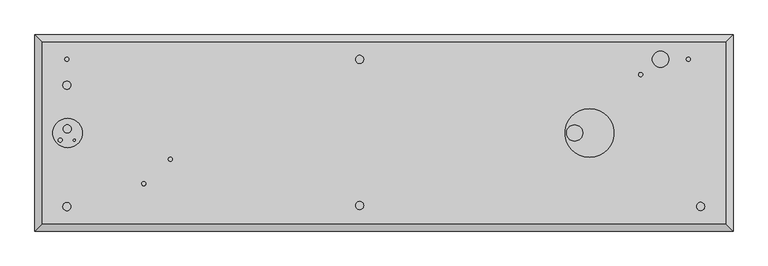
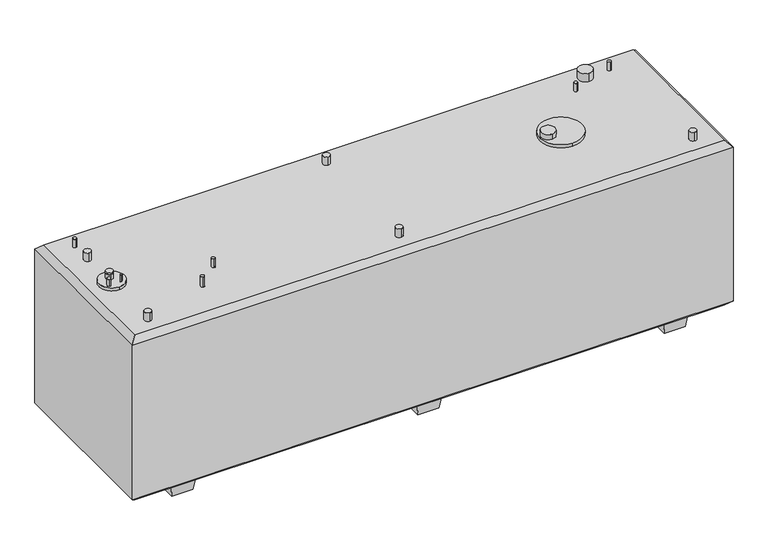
"""IFC4 building model written with IfcOpenShell, lengths in millimetres: proxy geometry, Convault Tank Family 88153032 : Convault Tank Family 88153032."""

from ifc_helpers import new_model, si_unit, point, frame, frame_2d, origin, place, context, project, spatial, polyline, circle_curve, trimmed, segment, composite_curve, outline, extrude, faceted_brep, source, transform, mapped, element, save
from ifc_brep_helpers import plane_surface, cylinder_surface, revolved_surface, advanced_brep


def generic_models_97f52d0d(model_context):
    return source(origin(), model_context, "Body", "SolidModel", [
        extrude(outline(composite_curve([segment(trimmed(circle_curve(frame_2d((-3954.4625, 0.0)), 184.15), [point((-3954.4625, 184.15))], [point((-3954.4625, -184.15))], False, "CARTESIAN"), True, "CONTINUOUS"), segment(trimmed(circle_curve(frame_2d((-3954.4625, 0.0)), 184.15), [point((-3954.4625, -184.15))], [point((-3954.4625, 184.15))], False, "CARTESIAN"), True, "CONTINUOUS")], self_intersect=False)), frame((0.0, 0.0, 2508.25), z_axis=(0.0, 0.0, 1.0), x_axis=(1.0, 0.0, 0.0)), (0.0, 0.0, 1.0), 224.7090569),
        extrude(outline(composite_curve([segment(trimmed(circle_curve(frame_2d((2568.575, 0.0)), 304.8), [point((2568.575, 304.8))], [point((2568.575, -304.8))], False, "CARTESIAN"), True, "CONTINUOUS"), segment(trimmed(circle_curve(frame_2d((2568.575, 0.0)), 304.8), [point((2568.575, -304.8))], [point((2568.575, 304.8))], False, "CARTESIAN"), True, "CONTINUOUS")], self_intersect=False)), frame((0.0, 0.0, 2508.25), z_axis=(0.0, 0.0, 1.0), x_axis=(1.0, 0.0, 0.0)), (0.0, 0.0, 1.0), 224.7090569),
        advanced_brep(
        [(-3001.9625, -657.225, 2838.45), (-3001.9625, -606.425, 2838.45), (-3027.2795956, -633.875529, 2508.25), (-3001.9625, -606.425, 2508.25), (-2976.6454044, -633.875529, 2508.25), (-3001.9625, -610.5260581, 2508.25), (-3001.9625, -657.225, 2686.05), (-2976.6454044, -633.875529, 2686.05), (-3027.2795956, -633.875529, 2686.05), (-3001.9625, -610.5260581, 2686.05)],
        [
            (0, 1, circle_curve(frame((-3001.9625, -631.825, 2838.45), z_axis=(0.0, 0.0, 1.0), x_axis=(0.0, 1.0, 0.0)), 25.4)),
            (1, 0, circle_curve(frame((-3001.9625, -631.825, 2838.45), z_axis=(0.0, 0.0, 1.0), x_axis=(0.0, 1.0, 0.0)), 25.4)),
            (2, 3, circle_curve(frame((-3001.9625, -631.825, 2508.25), z_axis=(0.0, 0.0, -1.0), x_axis=(0.0, 1.0, 0.0)), 25.4)),
            (3, 4, circle_curve(frame((-3001.9625, -631.825, 2508.25), z_axis=(0.0, 0.0, -1.0), x_axis=(0.0, 1.0, 0.0)), 25.4)),
            (4, 5, circle_curve(frame((-3001.9625, -635.9260581, 2508.25), z_axis=(0.0, 0.0, 1.0), x_axis=(0.0, -1.0, 0.0)), 25.4)),
            (5, 2, circle_curve(frame((-3001.9625, -635.9260581, 2508.25), z_axis=(0.0, 0.0, 1.0), x_axis=(0.0, -1.0, 0.0)), 25.4)),
            (0, 6),
            (6, 7, circle_curve(frame((-3001.9625, -631.825, 2686.05), z_axis=(0.0, 0.0, 1.0), x_axis=(0.0, 1.0, 0.0)), 25.4)),
            (7, 4),
            (3, 1),
            (2, 8),
            (8, 6, circle_curve(frame((-3001.9625, -631.825, 2686.05), z_axis=(0.0, 0.0, 1.0), x_axis=(0.0, 1.0, 0.0)), 25.4)),
            (9, 7, circle_curve(frame((-3001.9625, -635.9260581, 2686.05), z_axis=(0.0, 0.0, -1.0), x_axis=(0.0, -1.0, 0.0)), 25.4)),
            (8, 9, circle_curve(frame((-3001.9625, -635.9260581, 2686.05), z_axis=(0.0, 0.0, -1.0), x_axis=(0.0, -1.0, 0.0)), 25.4)),
            (5, 9),
        ],
        [
            plane_surface(frame((-3001.9625, -606.425, 2838.45), z_axis=(0.0, 0.0, 1.0), x_axis=(-1.0, 0.0, 0.0))),
            plane_surface(frame((-3001.9625, -606.425, 2508.25), z_axis=(0.0, 0.0, -1.0), x_axis=(1.0, 0.0, 0.0))),
            cylinder_surface(frame((-3001.9625, -631.825, 2508.25), z_axis=(0.0, 0.0, 1.0), x_axis=(0.0, 1.0, 0.0)), 25.4),
            plane_surface(frame((-3962.4, 895.35, 2686.05), z_axis=(0.0, 0.0, -1.0), x_axis=(1.0, 0.0, 0.0))),
            revolved_surface(polyline([(-3001.9625, -661.3260581, 2686.05), (-3001.9625, -661.3260581, 2508.25)]), (-3001.9625, -635.9260581, 2508.25), (0.0, 0.0, 1.0)),
        ],
        [
            (0, [[1, 2]]),
            (1, [[3, 4, 5, 6]]),
            (2, [[-1, 7, 8, 9, -4, 10]]),
            (2, [[-2, -10, -3, 11, 12, -7]]),
            (3, [[13, -8, -12, 14]]),
            (4, [[15, -14, -11, -6]]),
            (4, [[-15, -5, -9, -13]]),
        ],
    ),
        advanced_brep(
        [(-3962.4, 946.15, 2813.05), (-3962.4, 895.35, 2813.05), (-3962.4, 946.15, 2686.05), (-3962.4, 895.35, 2686.05)],
        [
            (0, 1, circle_curve(frame((-3962.4, 920.75, 2813.05), z_axis=(0.0, 0.0, 1.0), x_axis=(0.0, -1.0, 0.0)), 25.4)),
            (1, 0, circle_curve(frame((-3962.4, 920.75, 2813.05), z_axis=(0.0, 0.0, 1.0), x_axis=(0.0, -1.0, 0.0)), 25.4)),
            (0, 2),
            (2, 3, circle_curve(frame((-3962.4, 920.75, 2686.05), z_axis=(0.0, 0.0, 1.0), x_axis=(0.0, -1.0, 0.0)), 25.4)),
            (3, 1),
            (3, 2, circle_curve(frame((-3962.4, 920.75, 2686.05), z_axis=(0.0, 0.0, 1.0), x_axis=(0.0, -1.0, 0.0)), 25.4)),
        ],
        [
            plane_surface(frame((-3962.4, 895.35, 2813.05), z_axis=(0.0, 0.0, 1.0), x_axis=(1.0, 0.0, 0.0))),
            cylinder_surface(frame((-3962.4, 920.75, 2508.25), z_axis=(0.0, 0.0, 1.0), x_axis=(0.0, -1.0, 0.0)), 25.4),
            plane_surface(frame((-3962.4, 895.35, 2686.05), z_axis=(0.0, 0.0, -1.0), x_axis=(1.0, 0.0, 0.0))),
        ],
        [
            (0, [[1, 2]]),
            (1, [[-1, 3, 4, 5]]),
            (1, [[-2, -5, 6, -3]]),
            (2, [[-4, -6]]),
        ],
    ),
        advanced_brep(
        [(-3962.4, 647.7, 2813.05), (-3962.4, 546.1, 2813.05), (-3962.4, 647.7, 2686.05), (-3962.4, 546.1, 2686.05)],
        [
            (0, 1, circle_curve(frame((-3962.4, 596.9, 2813.05), z_axis=(0.0, 0.0, 1.0), x_axis=(0.0, -1.0, 0.0)), 50.8)),
            (1, 0, circle_curve(frame((-3962.4, 596.9, 2813.05), z_axis=(0.0, 0.0, 1.0), x_axis=(0.0, -1.0, 0.0)), 50.8)),
            (0, 2),
            (2, 3, circle_curve(frame((-3962.4, 596.9, 2686.05), z_axis=(0.0, 0.0, 1.0), x_axis=(0.0, -1.0, 0.0)), 50.8)),
            (3, 1),
            (3, 2, circle_curve(frame((-3962.4, 596.9, 2686.05), z_axis=(0.0, 0.0, 1.0), x_axis=(0.0, -1.0, 0.0)), 50.8)),
        ],
        [
            plane_surface(frame((-3962.4, 895.35, 2813.05), z_axis=(0.0, 0.0, 1.0), x_axis=(1.0, 0.0, 0.0))),
            cylinder_surface(frame((-3962.4, 596.9, 2508.25), z_axis=(0.0, 0.0, 1.0), x_axis=(0.0, -1.0, 0.0)), 50.8),
            plane_surface(frame((-3962.4, 895.35, 2686.05), z_axis=(0.0, 0.0, -1.0), x_axis=(1.0, 0.0, 0.0))),
        ],
        [
            (0, [[1, 2]]),
            (1, [[-1, 3, 4, 5]]),
            (1, [[-2, -5, 6, -3]]),
            (2, [[-4, -6]]),
        ],
    ),
        advanced_brep(
        [(-3962.4, -869.95, 2813.05), (-3962.4, -971.55, 2813.05), (-3962.4, -869.95, 2686.05), (-3962.4, -971.55, 2686.05)],
        [
            (0, 1, circle_curve(frame((-3962.4, -920.75, 2813.05), z_axis=(0.0, 0.0, 1.0), x_axis=(0.0, -1.0, 0.0)), 50.8)),
            (1, 0, circle_curve(frame((-3962.4, -920.75, 2813.05), z_axis=(0.0, 0.0, 1.0), x_axis=(0.0, -1.0, 0.0)), 50.8)),
            (0, 2),
            (2, 3, circle_curve(frame((-3962.4, -920.75, 2686.05), z_axis=(0.0, 0.0, 1.0), x_axis=(0.0, -1.0, 0.0)), 50.8)),
            (3, 1),
            (3, 2, circle_curve(frame((-3962.4, -920.75, 2686.05), z_axis=(0.0, 0.0, 1.0), x_axis=(0.0, -1.0, 0.0)), 50.8)),
        ],
        [
            plane_surface(frame((-3962.4, 895.35, 2813.05), z_axis=(0.0, 0.0, 1.0), x_axis=(1.0, 0.0, 0.0))),
            cylinder_surface(frame((-3962.4, -920.75, 2508.25), z_axis=(0.0, 0.0, 1.0), x_axis=(0.0, -1.0, 0.0)), 50.8),
            plane_surface(frame((-3962.4, 895.35, 2686.05), z_axis=(0.0, 0.0, -1.0), x_axis=(1.0, 0.0, 0.0))),
        ],
        [
            (0, [[1, 2]]),
            (1, [[-1, 3, 4, 5]]),
            (1, [[-2, -5, 6, -3]]),
            (2, [[-4, -6]]),
        ],
    ),
        advanced_brep(
        [(-2670.175, -301.625, 2813.05), (-2670.175, -352.425, 2813.05), (-2670.175, -301.625, 2686.05), (-2670.175, -352.425, 2686.05)],
        [
            (0, 1, circle_curve(frame((-2670.175, -327.025, 2813.05), z_axis=(0.0, 0.0, 1.0), x_axis=(0.0, -1.0, 0.0)), 25.4)),
            (1, 0, circle_curve(frame((-2670.175, -327.025, 2813.05), z_axis=(0.0, 0.0, 1.0), x_axis=(0.0, -1.0, 0.0)), 25.4)),
            (0, 2),
            (2, 3, circle_curve(frame((-2670.175, -327.025, 2686.05), z_axis=(0.0, 0.0, 1.0), x_axis=(0.0, -1.0, 0.0)), 25.4)),
            (3, 1),
            (3, 2, circle_curve(frame((-2670.175, -327.025, 2686.05), z_axis=(0.0, 0.0, 1.0), x_axis=(0.0, -1.0, 0.0)), 25.4)),
        ],
        [
            plane_surface(frame((-3962.4, 895.35, 2813.05), z_axis=(0.0, 0.0, 1.0), x_axis=(1.0, 0.0, 0.0))),
            cylinder_surface(frame((-2670.175, -327.025, 2508.25), z_axis=(0.0, 0.0, 1.0), x_axis=(0.0, -1.0, 0.0)), 25.4),
            plane_surface(frame((-3962.4, 895.35, 2686.05), z_axis=(0.0, 0.0, -1.0), x_axis=(1.0, 0.0, 0.0))),
        ],
        [
            (0, [[1, 2]]),
            (1, [[-1, 3, 4, 5]]),
            (1, [[-2, -5, 6, -3]]),
            (2, [[-4, -6]]),
        ],
    ),
        advanced_brep(
        [(2382.8375, 101.6, 2813.05), (2382.8375, -101.6, 2813.05), (2382.8375, 101.6, 2686.05), (2382.8375, -101.6, 2686.05)],
        [
            (0, 1, circle_curve(frame((2382.8375, 0.0, 2813.05), z_axis=(0.0, 0.0, 1.0), x_axis=(0.0, -1.0, 0.0)), 101.6)),
            (1, 0, circle_curve(frame((2382.8375, 0.0, 2813.05), z_axis=(0.0, 0.0, 1.0), x_axis=(0.0, -1.0, 0.0)), 101.6)),
            (0, 2),
            (2, 3, circle_curve(frame((2382.8375, 0.0, 2686.05), z_axis=(0.0, 0.0, 1.0), x_axis=(0.0, -1.0, 0.0)), 101.6)),
            (3, 1),
            (3, 2, circle_curve(frame((2382.8375, 0.0, 2686.05), z_axis=(0.0, 0.0, 1.0), x_axis=(0.0, -1.0, 0.0)), 101.6)),
        ],
        [
            plane_surface(frame((-3962.4, 895.35, 2813.05), z_axis=(0.0, 0.0, 1.0), x_axis=(1.0, 0.0, 0.0))),
            cylinder_surface(frame((2382.8375, 0.0, 2508.25), z_axis=(0.0, 0.0, 1.0), x_axis=(0.0, -1.0, 0.0)), 101.6),
            plane_surface(frame((-3962.4, 895.35, 2686.05), z_axis=(0.0, 0.0, -1.0), x_axis=(1.0, 0.0, 0.0))),
        ],
        [
            (0, [[1, 2]]),
            (1, [[-1, 3, 4, 5]]),
            (1, [[-2, -5, 6, -3]]),
            (2, [[-4, -6]]),
        ],
    ),
        advanced_brep(
        [(3455.9875, 1022.35, 2813.05), (3455.9875, 819.15, 2813.05), (3455.9875, 1022.35, 2508.25), (3455.9875, 819.15, 2508.25)],
        [
            (0, 1, circle_curve(frame((3455.9875, 920.75, 2813.05), z_axis=(0.0, 0.0, 1.0), x_axis=(0.0, -1.0, 0.0)), 101.6)),
            (1, 0, circle_curve(frame((3455.9875, 920.75, 2813.05), z_axis=(0.0, 0.0, 1.0), x_axis=(0.0, -1.0, 0.0)), 101.6)),
            (2, 3, circle_curve(frame((3455.9875, 920.75, 2508.25), z_axis=(0.0, 0.0, -1.0), x_axis=(0.0, -1.0, 0.0)), 101.6)),
            (3, 2, circle_curve(frame((3455.9875, 920.75, 2508.25), z_axis=(0.0, 0.0, -1.0), x_axis=(0.0, -1.0, 0.0)), 101.6)),
            (0, 2),
            (3, 1),
        ],
        [
            plane_surface(frame((-3962.4, 895.35, 2813.05), z_axis=(0.0, 0.0, 1.0), x_axis=(1.0, 0.0, 0.0))),
            plane_surface(frame((-3962.4, 895.35, 2508.25), z_axis=(0.0, 0.0, -1.0), x_axis=(-1.0, 0.0, 0.0))),
            cylinder_surface(frame((3455.9875, 920.75, 2508.25), z_axis=(0.0, 0.0, 1.0), x_axis=(0.0, -1.0, 0.0)), 101.6),
        ],
        [
            (0, [[1, 2]]),
            (1, [[3, 4]]),
            (2, [[-1, 5, -4, 6]]),
            (2, [[-2, -6, -3, -5]]),
        ],
    ),
        advanced_brep(
        [(3803.65, 946.15, 2813.05), (3803.65, 895.35, 2813.05), (3803.65, 946.15, 2686.05), (3803.65, 895.35, 2686.05)],
        [
            (0, 1, circle_curve(frame((3803.65, 920.75, 2813.05), z_axis=(0.0, 0.0, 1.0), x_axis=(0.0, -1.0, 0.0)), 25.4)),
            (1, 0, circle_curve(frame((3803.65, 920.75, 2813.05), z_axis=(0.0, 0.0, 1.0), x_axis=(0.0, -1.0, 0.0)), 25.4)),
            (0, 2),
            (2, 3, circle_curve(frame((3803.65, 920.75, 2686.05), z_axis=(0.0, 0.0, 1.0), x_axis=(0.0, -1.0, 0.0)), 25.4)),
            (3, 1),
            (3, 2, circle_curve(frame((3803.65, 920.75, 2686.05), z_axis=(0.0, 0.0, 1.0), x_axis=(0.0, -1.0, 0.0)), 25.4)),
        ],
        [
            plane_surface(frame((-3962.4, 895.35, 2813.05), z_axis=(0.0, 0.0, 1.0), x_axis=(1.0, 0.0, 0.0))),
            cylinder_surface(frame((3803.65, 920.75, 2508.25), z_axis=(0.0, 0.0, 1.0), x_axis=(0.0, -1.0, 0.0)), 25.4),
            plane_surface(frame((-3962.4, 895.35, 2686.05), z_axis=(0.0, 0.0, -1.0), x_axis=(1.0, 0.0, 0.0))),
        ],
        [
            (0, [[1, 2]]),
            (1, [[-1, 3, 4, 5]]),
            (1, [[-2, -5, 6, -3]]),
            (2, [[-4, -6]]),
        ],
    ),
        advanced_brep(
        [(-304.8, -855.6625, 2813.05), (-304.8, -957.2625, 2813.05), (-304.8, -855.6625, 2686.05), (-304.8, -957.2625, 2686.05)],
        [
            (0, 1, circle_curve(frame((-304.8, -906.4625, 2813.05), z_axis=(0.0, 0.0, 1.0), x_axis=(0.0, -1.0, 0.0)), 50.8)),
            (1, 0, circle_curve(frame((-304.8, -906.4625, 2813.05), z_axis=(0.0, 0.0, 1.0), x_axis=(0.0, -1.0, 0.0)), 50.8)),
            (0, 2),
            (2, 3, circle_curve(frame((-304.8, -906.4625, 2686.05), z_axis=(0.0, 0.0, 1.0), x_axis=(0.0, -1.0, 0.0)), 50.8)),
            (3, 1),
            (3, 2, circle_curve(frame((-304.8, -906.4625, 2686.05), z_axis=(0.0, 0.0, 1.0), x_axis=(0.0, -1.0, 0.0)), 50.8)),
        ],
        [
            plane_surface(frame((-3962.4, 895.35, 2813.05), z_axis=(0.0, 0.0, 1.0), x_axis=(1.0, 0.0, 0.0))),
            cylinder_surface(frame((-304.8, -906.4625, 2508.25), z_axis=(0.0, 0.0, 1.0), x_axis=(0.0, -1.0, 0.0)), 50.8),
            plane_surface(frame((-3962.4, 895.35, 2686.05), z_axis=(0.0, 0.0, -1.0), x_axis=(1.0, 0.0, 0.0))),
        ],
        [
            (0, [[1, 2]]),
            (1, [[-1, 3, 4, 5]]),
            (1, [[-2, -5, 6, -3]]),
            (2, [[-4, -6]]),
        ],
    ),
        advanced_brep(
        [(3956.05, -867.3290693, 2813.05), (3956.05, -968.9290693, 2813.05), (3956.05, -867.3290693, 2508.25), (4006.8488176, -918.475672, 2508.25), (3956.05, -868.0222746, 2508.25), (3905.2511824, -918.475672, 2508.25), (3956.05, -868.0222746, 2686.05), (4006.8488176, -918.475672, 2686.05), (3956.05, -968.9290693, 2686.05), (3905.2511824, -918.475672, 2686.05)],
        [
            (0, 1, circle_curve(frame((3956.05, -918.1290693, 2813.05), z_axis=(0.0, 0.0, 1.0), x_axis=(0.0, -1.0, 0.0)), 50.8)),
            (1, 0, circle_curve(frame((3956.05, -918.1290693, 2813.05), z_axis=(0.0, 0.0, 1.0), x_axis=(0.0, -1.0, 0.0)), 50.8)),
            (2, 3, circle_curve(frame((3956.05, -918.1290693, 2508.25), z_axis=(0.0, 0.0, -1.0), x_axis=(0.0, -1.0, 0.0)), 50.8)),
            (3, 4, circle_curve(frame((3956.05, -918.8222746, 2508.25), z_axis=(0.0, 0.0, 1.0), x_axis=(0.0, -1.0, 0.0)), 50.8)),
            (4, 5, circle_curve(frame((3956.05, -918.8222746, 2508.25), z_axis=(0.0, 0.0, 1.0), x_axis=(0.0, -1.0, 0.0)), 50.8)),
            (5, 2, circle_curve(frame((3956.05, -918.1290693, 2508.25), z_axis=(0.0, 0.0, -1.0), x_axis=(0.0, -1.0, 0.0)), 50.8)),
            (6, 7, circle_curve(frame((3956.05, -918.8222746, 2686.05), z_axis=(0.0, 0.0, -1.0), x_axis=(0.0, -1.0, 0.0)), 50.8)),
            (7, 8, circle_curve(frame((3956.05, -918.1290693, 2686.05), z_axis=(0.0, 0.0, -1.0), x_axis=(0.0, -1.0, 0.0)), 50.8)),
            (8, 9, circle_curve(frame((3956.05, -918.1290693, 2686.05), z_axis=(0.0, 0.0, -1.0), x_axis=(0.0, -1.0, 0.0)), 50.8)),
            (9, 6, circle_curve(frame((3956.05, -918.8222746, 2686.05), z_axis=(0.0, 0.0, -1.0), x_axis=(0.0, -1.0, 0.0)), 50.8)),
            (0, 2),
            (5, 9),
            (8, 1),
            (7, 3),
            (4, 6),
        ],
        [
            plane_surface(frame((-3962.4, 895.35, 2813.05), z_axis=(0.0, 0.0, 1.0), x_axis=(1.0, 0.0, 0.0))),
            plane_surface(frame((-3962.4, 895.35, 2508.25), z_axis=(0.0, 0.0, -1.0), x_axis=(-1.0, 0.0, 0.0))),
            plane_surface(frame((-3962.4, 895.35, 2686.05), z_axis=(0.0, 0.0, -1.0), x_axis=(1.0, 0.0, 0.0))),
            cylinder_surface(frame((3956.05, -918.1290693, 2508.25), z_axis=(0.0, 0.0, 1.0), x_axis=(0.0, -1.0, 0.0)), 50.8),
            revolved_surface(polyline([(3956.05, -969.6222746, 2686.05), (3956.05, -969.6222746, 2508.25)]), (3956.05, -918.8222746, 2508.25), (0.0, 0.0, 1.0)),
        ],
        [
            (0, [[1, 2]]),
            (1, [[3, 4, 5, 6]]),
            (2, [[7, 8, 9, 10]]),
            (3, [[-1, 11, -6, 12, -9, 13]]),
            (3, [[-2, -13, -8, 14, -3, -11]]),
            (4, [[15, -10, -12, -5]]),
            (4, [[-15, -4, -14, -7]]),
        ],
    ),
        advanced_brep(
        [(-3959.225, 101.6, 2813.05), (-3959.225, 0.0, 2813.05), (-3959.225, 101.6, 2508.25), (-3959.225, 0.0, 2508.25)],
        [
            (0, 1, circle_curve(frame((-3959.225, 50.8, 2813.05), z_axis=(0.0, 0.0, 1.0), x_axis=(0.0, -1.0, 0.0)), 50.8)),
            (1, 0, circle_curve(frame((-3959.225, 50.8, 2813.05), z_axis=(0.0, 0.0, 1.0), x_axis=(0.0, -1.0, 0.0)), 50.8)),
            (2, 3, circle_curve(frame((-3959.225, 50.8, 2508.25), z_axis=(0.0, 0.0, -1.0), x_axis=(0.0, -1.0, 0.0)), 50.8)),
            (3, 2, circle_curve(frame((-3959.225, 50.8, 2508.25), z_axis=(0.0, 0.0, -1.0), x_axis=(0.0, -1.0, 0.0)), 50.8)),
            (0, 2),
            (3, 1),
        ],
        [
            plane_surface(frame((-3962.4, 895.35, 2813.05), z_axis=(0.0, 0.0, 1.0), x_axis=(1.0, 0.0, 0.0))),
            plane_surface(frame((-3962.4, 895.35, 2508.25), z_axis=(0.0, 0.0, -1.0), x_axis=(-1.0, 0.0, 0.0))),
            cylinder_surface(frame((-3959.225, 50.8, 2508.25), z_axis=(0.0, 0.0, 1.0), x_axis=(0.0, -1.0, 0.0)), 50.8),
        ],
        [
            (0, [[1, 2]]),
            (1, [[3, 4]]),
            (2, [[-1, 5, -4, 6]]),
            (2, [[-2, -6, -3, -5]]),
        ],
    ),
        advanced_brep(
        [(-304.8, 971.55, 2813.05), (-304.8, 869.95, 2813.05), (-304.8, 971.55, 2508.25), (-304.8, 869.95, 2508.25)],
        [
            (0, 1, circle_curve(frame((-304.8, 920.75, 2813.05), z_axis=(0.0, 0.0, 1.0), x_axis=(0.0, -1.0, 0.0)), 50.8)),
            (1, 0, circle_curve(frame((-304.8, 920.75, 2813.05), z_axis=(0.0, 0.0, 1.0), x_axis=(0.0, -1.0, 0.0)), 50.8)),
            (2, 3, circle_curve(frame((-304.8, 920.75, 2508.25), z_axis=(0.0, 0.0, -1.0), x_axis=(0.0, -1.0, 0.0)), 50.8)),
            (3, 2, circle_curve(frame((-304.8, 920.75, 2508.25), z_axis=(0.0, 0.0, -1.0), x_axis=(0.0, -1.0, 0.0)), 50.8)),
            (0, 2),
            (3, 1),
        ],
        [
            plane_surface(frame((-3962.4, 895.35, 2813.05), z_axis=(0.0, 0.0, 1.0), x_axis=(1.0, 0.0, 0.0))),
            plane_surface(frame((-3962.4, 895.35, 2508.25), z_axis=(0.0, 0.0, -1.0), x_axis=(-1.0, 0.0, 0.0))),
            cylinder_surface(frame((-304.8, 920.75, 2508.25), z_axis=(0.0, 0.0, 1.0), x_axis=(0.0, -1.0, 0.0)), 50.8),
        ],
        [
            (0, [[1, 2]]),
            (1, [[3, 4]]),
            (2, [[-1, 5, -4, 6]]),
            (2, [[-2, -6, -3, -5]]),
        ],
    ),
        advanced_brep(
        [(3206.75, 755.65, 2813.05), (3206.75, 704.85, 2813.05), (3206.75, 755.65, 2508.25), (3206.75, 704.85, 2508.25)],
        [
            (0, 1, circle_curve(frame((3206.75, 730.25, 2813.05), z_axis=(0.0, 0.0, 1.0), x_axis=(0.0, -1.0, 0.0)), 25.4)),
            (1, 0, circle_curve(frame((3206.75, 730.25, 2813.05), z_axis=(0.0, 0.0, 1.0), x_axis=(0.0, -1.0, 0.0)), 25.4)),
            (2, 3, circle_curve(frame((3206.75, 730.25, 2508.25), z_axis=(0.0, 0.0, -1.0), x_axis=(0.0, -1.0, 0.0)), 25.4)),
            (3, 2, circle_curve(frame((3206.75, 730.25, 2508.25), z_axis=(0.0, 0.0, -1.0), x_axis=(0.0, -1.0, 0.0)), 25.4)),
            (0, 2),
            (3, 1),
        ],
        [
            plane_surface(frame((-3962.4, 895.35, 2813.05), z_axis=(0.0, 0.0, 1.0), x_axis=(1.0, 0.0, 0.0))),
            plane_surface(frame((-3962.4, 895.35, 2508.25), z_axis=(0.0, 0.0, -1.0), x_axis=(-1.0, 0.0, 0.0))),
            cylinder_surface(frame((3206.75, 730.25, 2508.25), z_axis=(0.0, 0.0, 1.0), x_axis=(0.0, -1.0, 0.0)), 25.4),
        ],
        [
            (0, [[1, 2]]),
            (1, [[3, 4]]),
            (2, [[-1, 5, -4, 6]]),
            (2, [[-2, -6, -3, -5]]),
        ],
    ),
        extrude(outline(polyline([(4210.05, 1073.15), (4210.05, -1073.15), (-4210.05, -1073.15), (-4210.05, 1073.15), (4210.05, 1073.15)]), holes=[composite_curve([segment(trimmed(circle_curve(frame_2d((-3962.4, 920.75)), 25.4), [point((-3962.4, 946.15))], [point((-3962.4, 895.35))], True, "CARTESIAN"), True, "CONTINUOUS"), segment(trimmed(circle_curve(frame_2d((-3962.4, 920.75)), 25.4), [point((-3962.4, 895.35))], [point((-3962.4, 946.15))], True, "CARTESIAN"), True, "CONTINUOUS")], self_intersect=False), composite_curve([segment(trimmed(circle_curve(frame_2d((-3962.4, 596.9)), 50.8), [point((-3962.4, 647.7))], [point((-3962.4, 546.1))], True, "CARTESIAN"), True, "CONTINUOUS"), segment(trimmed(circle_curve(frame_2d((-3962.4, 596.9)), 50.8), [point((-3962.4, 546.1))], [point((-3962.4, 647.7))], True, "CARTESIAN"), True, "CONTINUOUS")], self_intersect=False), composite_curve([segment(trimmed(circle_curve(frame_2d((-3962.4, -920.75)), 50.8), [point((-3962.4, -869.95))], [point((-3962.4, -971.55))], True, "CARTESIAN"), True, "CONTINUOUS"), segment(trimmed(circle_curve(frame_2d((-3962.4, -920.75)), 50.8), [point((-3962.4, -971.55))], [point((-3962.4, -869.95))], True, "CARTESIAN"), True, "CONTINUOUS")], self_intersect=False), composite_curve([segment(trimmed(circle_curve(frame_2d((-2670.175, -327.025)), 25.4), [point((-2670.175, -301.625))], [point((-2670.175, -352.425))], True, "CARTESIAN"), True, "CONTINUOUS"), segment(trimmed(circle_curve(frame_2d((-2670.175, -327.025)), 25.4), [point((-2670.175, -352.425))], [point((-2670.175, -301.625))], True, "CARTESIAN"), True, "CONTINUOUS")], self_intersect=False), composite_curve([segment(trimmed(circle_curve(frame_2d((2382.8375, 0.0)), 101.6), [point((2382.8375, 101.6))], [point((2382.8375, -101.6))], True, "CARTESIAN"), True, "CONTINUOUS"), segment(trimmed(circle_curve(frame_2d((2382.8375, 0.0)), 101.6), [point((2382.8375, -101.6))], [point((2382.8375, 101.6))], True, "CARTESIAN"), True, "CONTINUOUS")], self_intersect=False), composite_curve([segment(trimmed(circle_curve(frame_2d((3803.65, 920.75)), 25.4), [point((3803.65, 946.15))], [point((3803.65, 895.35))], True, "CARTESIAN"), True, "CONTINUOUS"), segment(trimmed(circle_curve(frame_2d((3803.65, 920.75)), 25.4), [point((3803.65, 895.35))], [point((3803.65, 946.15))], True, "CARTESIAN"), True, "CONTINUOUS")], self_intersect=False), composite_curve([segment(trimmed(circle_curve(frame_2d((-304.8, -906.4625)), 50.8), [point((-304.8, -855.6625))], [point((-304.8, -957.2625))], True, "CARTESIAN"), True, "CONTINUOUS"), segment(trimmed(circle_curve(frame_2d((-304.8, -906.4625)), 50.8), [point((-304.8, -957.2625))], [point((-304.8, -855.6625))], True, "CARTESIAN"), True, "CONTINUOUS")], self_intersect=False), composite_curve([segment(trimmed(circle_curve(frame_2d((-3001.9625, -635.9260581)), 25.4), [point((-3001.9625, -610.5260581))], [point((-3001.9625, -661.3260581))], True, "CARTESIAN"), True, "CONTINUOUS"), segment(trimmed(circle_curve(frame_2d((-3001.9625, -635.9260581)), 25.4), [point((-3001.9625, -661.3260581))], [point((-3001.9625, -610.5260581))], True, "CARTESIAN"), True, "CONTINUOUS")], self_intersect=False), composite_curve([segment(trimmed(circle_curve(frame_2d((3956.05, -918.8222746)), 50.8), [point((3956.05, -868.0222746))], [point((3956.05, -969.6222746))], True, "CARTESIAN"), True, "CONTINUOUS"), segment(trimmed(circle_curve(frame_2d((3956.05, -918.8222746)), 50.8), [point((3956.05, -969.6222746))], [point((3956.05, -868.0222746))], True, "CARTESIAN"), True, "CONTINUOUS")], self_intersect=False)]), frame((0.0, 0.0, 2508.25), z_axis=(0.0, 0.0, 1.0), x_axis=(1.0, 0.0, 0.0)), (0.0, 0.0, 1.0), 25.4),
        extrude(outline(composite_curve([segment(trimmed(circle_curve(frame_2d((-3959.225, 50.8)), 50.8), [point((-3959.225, 101.6))], [point((-3959.225, 0.0))], False, "CARTESIAN"), True, "CONTINUOUS"), segment(trimmed(circle_curve(frame_2d((-3959.225, 50.8)), 50.8), [point((-3959.225, 0.0))], [point((-3959.225, 101.6))], False, "CARTESIAN"), True, "CONTINUOUS")], self_intersect=False)), frame((0.0, 0.0, 2508.25), z_axis=(0.0, 0.0, 1.0), x_axis=(1.0, 0.0, 0.0)), (0.0, 0.0, 1.0), 330.2),
        extrude(outline(composite_curve([segment(trimmed(circle_curve(frame_2d((-4046.1175835, -88.9)), 25.4), [point((-4046.1175835, -63.5))], [point((-4046.1175835, -114.3))], False, "CARTESIAN"), True, "CONTINUOUS"), segment(trimmed(circle_curve(frame_2d((-4046.1175835, -88.9)), 25.4), [point((-4046.1175835, -114.3))], [point((-4046.1175835, -63.5))], False, "CARTESIAN"), True, "CONTINUOUS")], self_intersect=False)), frame((0.0, 0.0, 2508.25), z_axis=(0.0, 0.0, 1.0), x_axis=(1.0, 0.0, 0.0)), (0.0, 0.0, 1.0), 330.2),
        extrude(outline(composite_curve([segment(trimmed(circle_curve(frame_2d((-3870.325, -88.9)), 12.7), [point((-3870.325, -76.2))], [point((-3870.325, -101.6))], False, "CARTESIAN"), True, "CONTINUOUS"), segment(trimmed(circle_curve(frame_2d((-3870.325, -88.9)), 12.7), [point((-3870.325, -101.6))], [point((-3870.325, -76.2))], False, "CARTESIAN"), True, "CONTINUOUS")], self_intersect=False)), frame((0.0, 0.0, 2508.25), z_axis=(0.0, 0.0, 1.0), x_axis=(1.0, 0.0, 0.0)), (0.0, 0.0, 1.0), 330.2),
        extrude(outline(polyline([(4184.65, -1073.15), (4184.65, 1073.15), (4210.05, 1073.15), (4210.05, -1073.15), (4184.65, -1073.15)])), frame((0.0, 0.0, 304.8), z_axis=(0.0, 0.0, 1.0), x_axis=(1.0, 0.0, 0.0)), (0.0, 0.0, 1.0), 2228.85),
        extrude(outline(polyline([(-4210.05, -1073.15), (-4210.05, 1073.15), (-4184.65, 1073.15), (-4184.65, -1073.15), (-4210.05, -1073.15)])), frame((0.0, 0.0, 304.8), z_axis=(0.0, 0.0, 1.0), x_axis=(1.0, 0.0, 0.0)), (0.0, 0.0, 1.0), 2228.85),
        extrude(outline(polyline([(-4210.05, 1073.15), (4210.05, 1073.15), (4210.05, 1047.75), (-4210.05, 1047.75), (-4210.05, 1073.15)])), frame((0.0, 0.0, 304.8), z_axis=(0.0, 0.0, 1.0), x_axis=(1.0, 0.0, 0.0)), (0.0, 0.0, 1.0), 2228.85),
        extrude(outline(polyline([(2533.65, 1073.15), (2533.65, -1073.15), (-2533.65, -1073.15), (-2533.65, 1073.15), (2533.65, 1073.15)])), frame((0.0, 0.0, 304.8), z_axis=(0.0, 0.0, 1.0), x_axis=(1.0, 0.0, 0.0)), (0.0, 0.0, 1.0), 25.4),
        extrude(outline(polyline([(-4210.05, -1047.75), (4210.05, -1047.75), (4210.05, -1073.15), (-4210.05, -1073.15), (-4210.05, -1047.75)])), frame((0.0, 0.0, 304.8), z_axis=(0.0, 0.0, 1.0), x_axis=(1.0, 0.0, 0.0)), (0.0, 0.0, 1.0), 2228.85),
        faceted_brep([(-3749.9674491, -1143.0, 152.4), (-3727.4093759, -1116.1277681, 0.0), (-3422.5707055, -1116.1277681, 0.0), (-3403.8583385, -1143.0, 152.4), (-3727.4093759, 1116.1277681, 0.0), (-3749.9674491, 1143.0, 152.4), (-3403.8583385, 1143.0, 152.4), (-3422.5707055, 1116.1277681, 0.0)], [[[0, 1, 2, 3]], [[4, 5, 6, 7]], [[4, 1, 0, 5]], [[6, 3, 2, 7]], [[1, 4, 7, 2]], [[3, 6, 5, 0]]]),
        faceted_brep([(-152.5992097, -1116.1277681, 0.0), (152.2394607, -1116.1277681, 0.0), (170.9518278, -1143.0, 152.4), (-175.1572828, -1143.0, 152.4), (152.2394607, 1116.1277681, 0.0), (-152.5992097, 1116.1277681, 0.0), (-175.1572828, 1143.0, 152.4), (170.9518278, 1143.0, 152.4)], [[[0, 1, 2, 3]], [[4, 5, 6, 7]], [[4, 1, 0, 5]], [[5, 0, 3, 6]], [[6, 3, 2, 7]], [[1, 4, 7, 2]]]),
        faceted_brep([(3422.4507903, -1116.1277681, 0.0), (3727.2894607, -1116.1277681, 0.0), (3746.0018278, -1143.0, 152.4), (3399.8927172, -1143.0, 152.4), (3727.2894607, 1116.1277681, 0.0), (3422.4507903, 1116.1277681, 0.0), (3399.8927172, 1143.0, 152.4), (3746.0018278, 1143.0, 152.4)], [[[0, 1, 2, 3]], [[4, 5, 6, 7]], [[4, 1, 0, 5]], [[5, 0, 3, 6]], [[6, 3, 2, 7]], [[1, 4, 7, 2]]]),
        advanced_brep(
        [(-4279.9, 1143.0, 2686.05), (-4279.9, -1143.0, 2686.05), (4279.9, -1143.0, 2686.05), (4279.9, 1143.0, 2686.05), (-3962.4, 895.35, 2686.05), (-3962.4, 946.15, 2686.05), (-3962.4, 546.1, 2686.05), (-3962.4, 647.7, 2686.05), (-3962.4, -971.55, 2686.05), (-3962.4, -869.95, 2686.05), (-2670.175, -352.425, 2686.05), (-2670.175, -301.625, 2686.05), (2382.8375, -101.6, 2686.05), (2382.8375, 101.6, 2686.05), (3803.65, 895.35, 2686.05), (3803.65, 946.15, 2686.05), (-304.8, -957.2625, 2686.05), (-304.8, -855.6625, 2686.05), (-3001.9625, -661.3260581, 2686.05), (-3001.9625, -610.5260581, 2686.05), (3956.05, -969.6222746, 2686.05), (3956.05, -868.0222746, 2686.05), (-4279.9, -1143.0, 152.4), (-4279.9, 1143.0, 152.4), (4279.9, 1143.0, 152.4), (4279.9, -1143.0, 152.4), (4362.45, 1225.55, 2603.5), (4362.45, 1225.55, 234.95), (-4362.45, 1225.55, 234.95), (-4362.45, 1225.55, 2603.5), (-4362.45, -1225.55, 234.95), (-4362.45, -1225.55, 2603.5), (4362.45, -1225.55, 234.95), (4362.45, -1225.55, 2603.5), (-4210.05, -1073.15, 2533.65), (-4210.05, -1073.15, 304.8), (-4210.05, 1073.15, 304.8), (-4210.05, 1073.15, 2533.65), (4210.05, -1073.15, 2533.65), (4210.05, 1073.15, 2533.65), (4210.05, 1073.15, 304.8), (4210.05, -1073.15, 304.8), (-3962.4, 946.15, 2533.65), (-3962.4, 895.35, 2533.65), (-3962.4, 647.7, 2533.65), (-3962.4, 546.1, 2533.65), (-3962.4, -869.95, 2533.65), (-3962.4, -971.55, 2533.65), (-2670.175, -301.625, 2533.65), (-2670.175, -352.425, 2533.65), (2382.8375, 101.6, 2533.65), (2382.8375, -101.6, 2533.65), (3803.65, 946.15, 2533.65), (3803.65, 895.35, 2533.65), (-304.8, -855.6625, 2533.65), (-304.8, -957.2625, 2533.65), (-3001.9625, -610.5260581, 2533.65), (-3001.9625, -661.3260581, 2533.65), (3956.05, -868.0222746, 2533.65), (3956.05, -969.6222746, 2533.65)],
        [
            (0, 1),
            (1, 2),
            (2, 3),
            (3, 0),
            (4, 5, circle_curve(frame((-3962.4, 920.75, 2686.05), z_axis=(0.0, 0.0, -1.0), x_axis=(0.0, -1.0, 0.0)), 25.4)),
            (5, 4, circle_curve(frame((-3962.4, 920.75, 2686.05), z_axis=(0.0, 0.0, -1.0), x_axis=(0.0, -1.0, 0.0)), 25.4)),
            (6, 7, circle_curve(frame((-3962.4, 596.9, 2686.05), z_axis=(0.0, 0.0, -1.0), x_axis=(0.0, -1.0, 0.0)), 50.8)),
            (7, 6, circle_curve(frame((-3962.4, 596.9, 2686.05), z_axis=(0.0, 0.0, -1.0), x_axis=(0.0, -1.0, 0.0)), 50.8)),
            (8, 9, circle_curve(frame((-3962.4, -920.75, 2686.05), z_axis=(0.0, 0.0, -1.0), x_axis=(0.0, -1.0, 0.0)), 50.8)),
            (9, 8, circle_curve(frame((-3962.4, -920.75, 2686.05), z_axis=(0.0, 0.0, -1.0), x_axis=(0.0, -1.0, 0.0)), 50.8)),
            (10, 11, circle_curve(frame((-2670.175, -327.025, 2686.05), z_axis=(0.0, 0.0, -1.0), x_axis=(0.0, -1.0, 0.0)), 25.4)),
            (11, 10, circle_curve(frame((-2670.175, -327.025, 2686.05), z_axis=(0.0, 0.0, -1.0), x_axis=(0.0, -1.0, 0.0)), 25.4)),
            (12, 13, circle_curve(frame((2382.8375, 0.0, 2686.05), z_axis=(0.0, 0.0, -1.0), x_axis=(0.0, -1.0, 0.0)), 101.6)),
            (13, 12, circle_curve(frame((2382.8375, 0.0, 2686.05), z_axis=(0.0, 0.0, -1.0), x_axis=(0.0, -1.0, 0.0)), 101.6)),
            (14, 15, circle_curve(frame((3803.65, 920.75, 2686.05), z_axis=(0.0, 0.0, -1.0), x_axis=(0.0, -1.0, 0.0)), 25.4)),
            (15, 14, circle_curve(frame((3803.65, 920.75, 2686.05), z_axis=(0.0, 0.0, -1.0), x_axis=(0.0, -1.0, 0.0)), 25.4)),
            (16, 17, circle_curve(frame((-304.8, -906.4625, 2686.05), z_axis=(0.0, 0.0, -1.0), x_axis=(0.0, -1.0, 0.0)), 50.8)),
            (17, 16, circle_curve(frame((-304.8, -906.4625, 2686.05), z_axis=(0.0, 0.0, -1.0), x_axis=(0.0, -1.0, 0.0)), 50.8)),
            (18, 19, circle_curve(frame((-3001.9625, -635.9260581, 2686.05), z_axis=(0.0, 0.0, -1.0), x_axis=(0.0, -1.0, 0.0)), 25.4)),
            (19, 18, circle_curve(frame((-3001.9625, -635.9260581, 2686.05), z_axis=(0.0, 0.0, -1.0), x_axis=(0.0, -1.0, 0.0)), 25.4)),
            (20, 21, circle_curve(frame((3956.05, -918.8222746, 2686.05), z_axis=(0.0, 0.0, -1.0), x_axis=(0.0, -1.0, 0.0)), 50.8)),
            (21, 20, circle_curve(frame((3956.05, -918.8222746, 2686.05), z_axis=(0.0, 0.0, -1.0), x_axis=(0.0, -1.0, 0.0)), 50.8)),
            (22, 23),
            (23, 24),
            (24, 25),
            (25, 22),
            (26, 27),
            (27, 28),
            (28, 29),
            (29, 26),
            (28, 30),
            (30, 31),
            (31, 29),
            (30, 32),
            (32, 33),
            (33, 31),
            (26, 33),
            (32, 27),
            (26, 3),
            (2, 33),
            (32, 25),
            (24, 27),
            (28, 23),
            (22, 30),
            (31, 1),
            (0, 29),
            (34, 35),
            (35, 36),
            (36, 37),
            (37, 34),
            (38, 39),
            (39, 40),
            (40, 41),
            (41, 38),
            (37, 39),
            (38, 34),
            (42, 43, circle_curve(frame((-3962.4, 920.75, 2533.65), z_axis=(0.0, 0.0, 1.0), x_axis=(0.0, -1.0, 0.0)), 25.4)),
            (43, 42, circle_curve(frame((-3962.4, 920.75, 2533.65), z_axis=(0.0, 0.0, 1.0), x_axis=(0.0, -1.0, 0.0)), 25.4)),
            (44, 45, circle_curve(frame((-3962.4, 596.9, 2533.65), z_axis=(0.0, 0.0, 1.0), x_axis=(0.0, -1.0, 0.0)), 50.8)),
            (45, 44, circle_curve(frame((-3962.4, 596.9, 2533.65), z_axis=(0.0, 0.0, 1.0), x_axis=(0.0, -1.0, 0.0)), 50.8)),
            (46, 47, circle_curve(frame((-3962.4, -920.75, 2533.65), z_axis=(0.0, 0.0, 1.0), x_axis=(0.0, -1.0, 0.0)), 50.8)),
            (47, 46, circle_curve(frame((-3962.4, -920.75, 2533.65), z_axis=(0.0, 0.0, 1.0), x_axis=(0.0, -1.0, 0.0)), 50.8)),
            (48, 49, circle_curve(frame((-2670.175, -327.025, 2533.65), z_axis=(0.0, 0.0, 1.0), x_axis=(0.0, -1.0, 0.0)), 25.4)),
            (49, 48, circle_curve(frame((-2670.175, -327.025, 2533.65), z_axis=(0.0, 0.0, 1.0), x_axis=(0.0, -1.0, 0.0)), 25.4)),
            (50, 51, circle_curve(frame((2382.8375, 0.0, 2533.65), z_axis=(0.0, 0.0, 1.0), x_axis=(0.0, -1.0, 0.0)), 101.6)),
            (51, 50, circle_curve(frame((2382.8375, 0.0, 2533.65), z_axis=(0.0, 0.0, 1.0), x_axis=(0.0, -1.0, 0.0)), 101.6)),
            (52, 53, circle_curve(frame((3803.65, 920.75, 2533.65), z_axis=(0.0, 0.0, 1.0), x_axis=(0.0, -1.0, 0.0)), 25.4)),
            (53, 52, circle_curve(frame((3803.65, 920.75, 2533.65), z_axis=(0.0, 0.0, 1.0), x_axis=(0.0, -1.0, 0.0)), 25.4)),
            (54, 55, circle_curve(frame((-304.8, -906.4625, 2533.65), z_axis=(0.0, 0.0, 1.0), x_axis=(0.0, -1.0, 0.0)), 50.8)),
            (55, 54, circle_curve(frame((-304.8, -906.4625, 2533.65), z_axis=(0.0, 0.0, 1.0), x_axis=(0.0, -1.0, 0.0)), 50.8)),
            (56, 57, circle_curve(frame((-3001.9625, -635.9260581, 2533.65), z_axis=(0.0, 0.0, 1.0), x_axis=(0.0, -1.0, 0.0)), 25.4)),
            (57, 56, circle_curve(frame((-3001.9625, -635.9260581, 2533.65), z_axis=(0.0, 0.0, 1.0), x_axis=(0.0, -1.0, 0.0)), 25.4)),
            (58, 59, circle_curve(frame((3956.05, -918.8222746, 2533.65), z_axis=(0.0, 0.0, 1.0), x_axis=(0.0, -1.0, 0.0)), 50.8)),
            (59, 58, circle_curve(frame((3956.05, -918.8222746, 2533.65), z_axis=(0.0, 0.0, 1.0), x_axis=(0.0, -1.0, 0.0)), 50.8)),
            (36, 40),
            (35, 41),
            (42, 5),
            (4, 43),
            (44, 7),
            (6, 45),
            (46, 9),
            (8, 47),
            (48, 11),
            (10, 49),
            (50, 13),
            (12, 51),
            (52, 15),
            (14, 53),
            (54, 17),
            (16, 55),
            (56, 19),
            (18, 57),
            (58, 21),
            (20, 59),
        ],
        [
            plane_surface(frame((-4362.45, 1225.55, 2686.05), z_axis=(0.0, 0.0, 1.0), x_axis=(-1.0, 0.0, 0.0))),
            plane_surface(frame((-4362.45, 1225.55, 152.4), z_axis=(0.0, 0.0, -1.0), x_axis=(1.0, 0.0, 0.0))),
            plane_surface(frame((4362.45, 1225.55, 2686.05), z_axis=(0.0, 1.0, 0.0), x_axis=(0.0, 0.0, -1.0))),
            plane_surface(frame((-4362.45, 1225.55, 2686.05), z_axis=(-1.0, 0.0, 0.0), x_axis=(0.0, 0.0, -1.0))),
            plane_surface(frame((-4362.45, -1225.55, 2686.05), z_axis=(0.0, -1.0, 0.0), x_axis=(0.0, 0.0, -1.0))),
            plane_surface(frame((4362.45, -1225.55, 2686.05), z_axis=(1.0, 0.0, 0.0), x_axis=(0.0, 0.0, -1.0))),
            plane_surface(frame((4362.45, 1225.55, 2603.5), z_axis=(0.7071067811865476, 0.0, 0.7071067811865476), x_axis=(0.0, -1.0, 0.0))),
            plane_surface(frame((4279.9, 1225.55, 152.4), z_axis=(0.7071067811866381, 0.0, -0.7071067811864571), x_axis=(0.0, -1.0, 0.0))),
            plane_surface(frame((-4362.45, 1225.55, 234.95), z_axis=(-0.7071067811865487, 0.0, -0.7071067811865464), x_axis=(0.0, -1.0, 0.0))),
            plane_surface(frame((-4279.9, 1225.55, 2686.05), z_axis=(-0.7071067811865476, 0.0, 0.7071067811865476), x_axis=(0.0, -1.0, 0.0))),
            plane_surface(frame((4362.45, -1225.55, 2603.5), z_axis=(0.0, -0.7071067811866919, 0.7071067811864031), x_axis=(-1.0, 0.0, 0.0))),
            plane_surface(frame((4362.45, 1143.0, 2686.05), z_axis=(0.0, 0.7071067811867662, 0.707106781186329), x_axis=(-1.0, 0.0, 0.0))),
            plane_surface(frame((4362.45, -1143.0, 152.4), z_axis=(0.0, -0.7071067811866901, -0.7071067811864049), x_axis=(-1.0, 0.0, 0.0))),
            plane_surface(frame((4362.45, 1225.55, 234.95), z_axis=(0.0, 0.7071067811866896, -0.7071067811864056), x_axis=(-1.0, 0.0, 0.0))),
            plane_surface(frame((-4210.05, 1073.15, 2533.65), z_axis=(1.0, 0.0, 0.0), x_axis=(0.0, 1.0, 0.0))),
            plane_surface(frame((4210.05, 1073.15, 2533.65), z_axis=(-1.0, 0.0, 0.0), x_axis=(0.0, -1.0, 0.0))),
            plane_surface(frame((-4210.05, -1073.15, 2533.65), z_axis=(0.0, 0.0, -1.0), x_axis=(1.0, 0.0, 0.0))),
            plane_surface(frame((-4210.05, 1073.15, 2533.65), z_axis=(0.0, -1.0, 0.0), x_axis=(1.0, 0.0, 0.0))),
            plane_surface(frame((-4210.05, 1073.15, 304.8), z_axis=(0.0, 0.0, 1.0), x_axis=(1.0, 0.0, 0.0))),
            plane_surface(frame((-4210.05, -1073.15, 304.8), z_axis=(0.0, 1.0, 0.0), x_axis=(1.0, 0.0, 0.0))),
            revolved_surface(polyline([(-3962.4, 895.35, 2686.05), (-3962.4, 895.35, 2533.65)]), (-3962.4, 920.75, 2508.25), (0.0, 0.0, 1.0)),
            revolved_surface(polyline([(-3962.4, 546.1, 2686.05), (-3962.4, 546.1, 2533.65)]), (-3962.4, 596.9, 2508.25), (0.0, 0.0, 1.0)),
            revolved_surface(polyline([(-3962.4, -971.55, 2686.05), (-3962.4, -971.55, 2533.65)]), (-3962.4, -920.75, 2508.25), (0.0, 0.0, 1.0)),
            revolved_surface(polyline([(-2670.175, -352.42499999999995, 2686.05), (-2670.175, -352.42499999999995, 2533.65)]), (-2670.175, -327.025, 2508.25), (0.0, 0.0, 1.0)),
            revolved_surface(polyline([(2382.8375, -101.6, 2686.05), (2382.8375, -101.6, 2533.65)]), (2382.8375, 0.0, 2508.25), (0.0, 0.0, 1.0)),
            revolved_surface(polyline([(3803.65, 895.35, 2686.05), (3803.65, 895.35, 2533.65)]), (3803.65, 920.75, 2508.25), (0.0, 0.0, 1.0)),
            revolved_surface(polyline([(-304.8, -957.2624999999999, 2686.05), (-304.8, -957.2624999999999, 2533.65)]), (-304.8, -906.4625, 2508.25), (0.0, 0.0, 1.0)),
            revolved_surface(polyline([(-3001.9625, -661.3260581, 2686.05), (-3001.9625, -661.3260581, 2533.65)]), (-3001.9625, -635.9260581, 2508.25), (0.0, 0.0, 1.0)),
            revolved_surface(polyline([(3956.05, -969.6222746, 2686.05), (3956.05, -969.6222746, 2533.65)]), (3956.05, -918.8222746, 2508.25), (0.0, 0.0, 1.0)),
        ],
        [
            (0, [[1, 2, 3, 4], [5, 6], [7, 8], [9, 10], [11, 12], [13, 14], [15, 16], [17, 18], [19, 20], [21, 22]]),
            (1, [[23, 24, 25, 26]]),
            (2, [[27, 28, 29, 30]]),
            (3, [[-29, 31, 32, 33]]),
            (4, [[-32, 34, 35, 36]]),
            (5, [[-27, 37, -35, 38]]),
            (6, [[-37, 39, -3, 40]]),
            (7, [[-38, 41, -25, 42]]),
            (8, [[-31, 43, -23, 44]]),
            (9, [[-33, 45, -1, 46]]),
            (10, [[-2, -45, -36, -40]]),
            (11, [[-4, -39, -30, -46]]),
            (12, [[-26, -41, -34, -44]]),
            (13, [[-24, -43, -28, -42]]),
            (14, [[47, 48, 49, 50]]),
            (15, [[51, 52, 53, 54]]),
            (16, [[-50, 55, -51, 56], [57, 58], [59, 60], [61, 62], [63, 64], [65, 66], [67, 68], [69, 70], [71, 72], [73, 74]]),
            (17, [[-49, 75, -52, -55]]),
            (18, [[-48, 76, -53, -75]]),
            (19, [[-47, -56, -54, -76]]),
            (20, [[77, -5, 78, -57]]),
            (20, [[-77, -58, -78, -6]]),
            (21, [[79, -7, 80, -59]]),
            (21, [[-79, -60, -80, -8]]),
            (22, [[81, -9, 82, -61]]),
            (22, [[-81, -62, -82, -10]]),
            (23, [[83, -11, 84, -63]]),
            (23, [[-83, -64, -84, -12]]),
            (24, [[85, -13, 86, -65]]),
            (24, [[-85, -66, -86, -14]]),
            (25, [[87, -15, 88, -67]]),
            (25, [[-87, -68, -88, -16]]),
            (26, [[89, -17, 90, -69]]),
            (26, [[-89, -70, -90, -18]]),
            (27, [[91, -19, 92, -71]]),
            (27, [[-91, -72, -92, -20]]),
            (28, [[93, -21, 94, -73]]),
            (28, [[-93, -74, -94, -22]]),
        ],
    ),
    ])


if __name__ == "__main__":
    model = new_model("IFC4")
    model_context = context("Model", 3, world=origin())
    ifc_project = project(units=[si_unit("LENGTHUNIT", "METRE", prefix="MILLI")], contexts=[model_context])
    site = spatial("IfcSite", under=ifc_project)
    building = spatial("IfcBuilding", under=site)
    placement = place(None, origin())
    generic_models_shape = generic_models_97f52d0d(model_context)
    element("IfcBuildingElementProxy", 1, Name="Convault Tank Family 88153032 : Convault Tank Family 88153032", ObjectType="Convault Tank Family 88153032 : Convault Tank Family 88153032", at=placement, inside=building, context=model_context, shape_type="MappedRepresentation", body=[
        mapped(generic_models_shape, transform((0.0, 0.0, 0.0), x_axis=(1.0, 0.0, 0.0), y_axis=(0.0, 1.0, 0.0), z_axis=(0.0, 0.0, 1.0))),
    ])
    save(model, "model.ifc")
